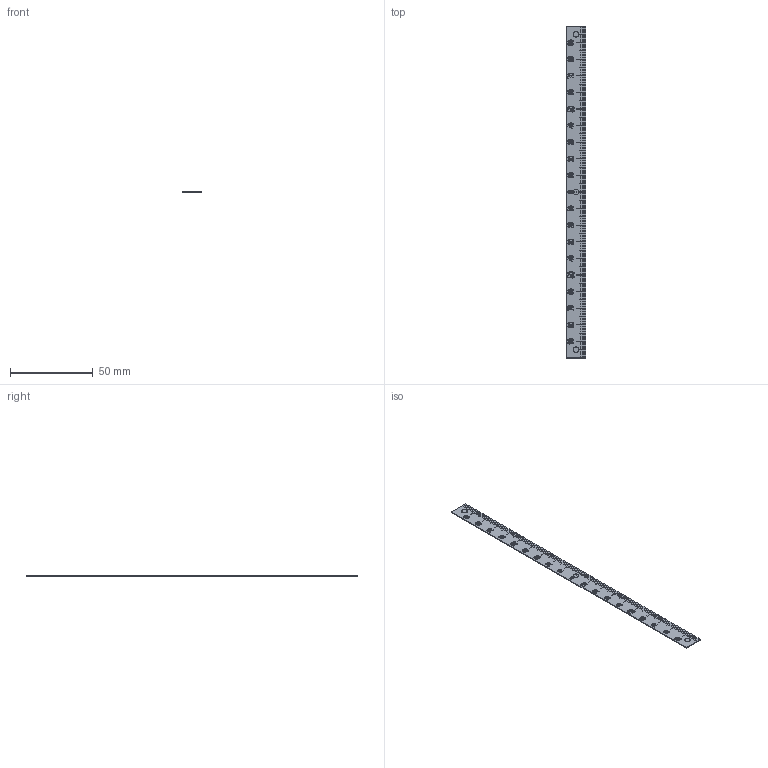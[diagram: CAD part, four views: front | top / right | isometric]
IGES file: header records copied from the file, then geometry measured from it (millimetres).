
Start section: SolidWorks IGES file using analytic representation for surfaces
Global section: file name: Y:\5.更新分\2023年対応\04xx_ALL\E\ES1N-D100100\es1n-d100100.IGS; native system: SolidWorks 2021; preprocessor: SolidWorks 2021; author: ImaoCorp; date: 230615.160636; units: millimetre
Bounding box: 12 x 200 x 0.5 mm (x, y, z)
Surface area: 5030.9 mm2 (no closed solid volume)
Topology: 0 solids, 0 shells, 1551 faces, 16419 edges, 16419 vertices
Faces by surface type: bspline 1537, revolution 14
